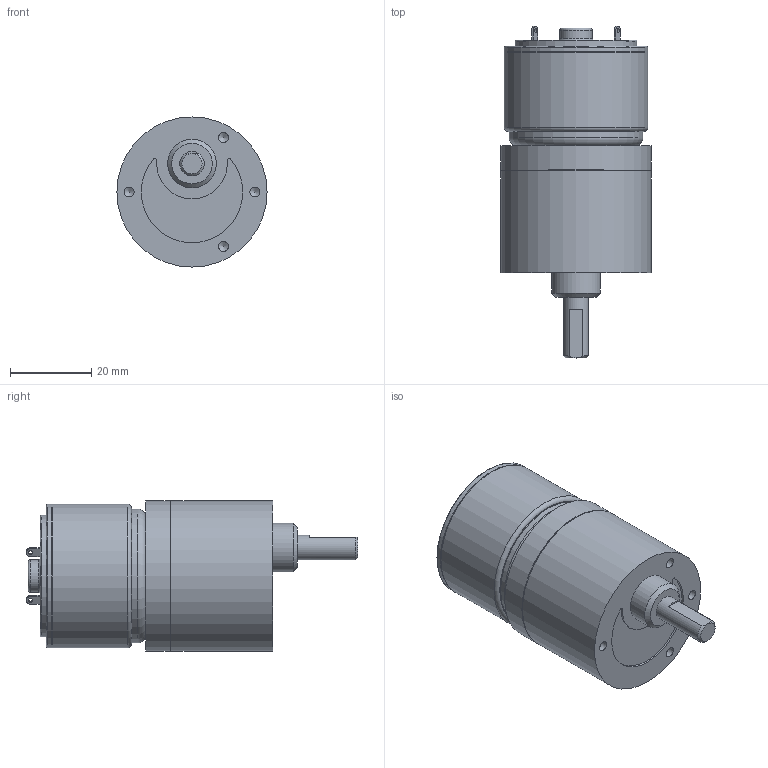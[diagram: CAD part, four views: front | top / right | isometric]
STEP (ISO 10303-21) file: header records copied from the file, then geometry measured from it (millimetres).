
FILE_DESCRIPTION((''),'2;1');
FILE_NAME('C:\Documents and Settings\SSEGAWA\デスクトップ\TP-3526E-HM-5.STP','2013-07-09T15:14:12',('SSEGAWA'),(''),'Autodesk Inventor 2010','Autodesk Inventor 2010','');
FILE_SCHEMA(('CONFIG_CONTROL_DESIGN'));
Length unit declared in the file: millimetre
Products named in the file (3): tp_3526e_hm_5; hm_5; tp_3526e
Assembly tree (2 placements, depth 2):
  tp_3526e_hm_5
    hm_5
    tp_3526e
Bounding box: 37 x 81.8 x 37 mm (x, y, z)
Volume: 59449.3 mm3; surface area: 11441.7 mm2
Topology: 2 solids, 2 shells, 76 faces, 162 edges, 106 vertices
Faces by surface type: plane 28, cylinder 22, bspline 18, torus 5, cone 3
Full cylindrical faces by diameter (mm): 1.1 x1, 2 x1, 2.4 x1, 5 x1, 6 x1, 8 x1, 10 x1, 12 x1, 30 x1, 33 x1, 35 x1, 35.4 x2, 36.6 x1, 37 x2
Entity records: 2088 total; most frequent: CARTESIAN_POINT 659, DIRECTION 297, ORIENTED_EDGE 202, EDGE_LOOP 137, AXIS2_PLACEMENT_3D 135, EDGE_CURVE 101, VERTEX_POINT 86, FACE_OUTER_BOUND 76
